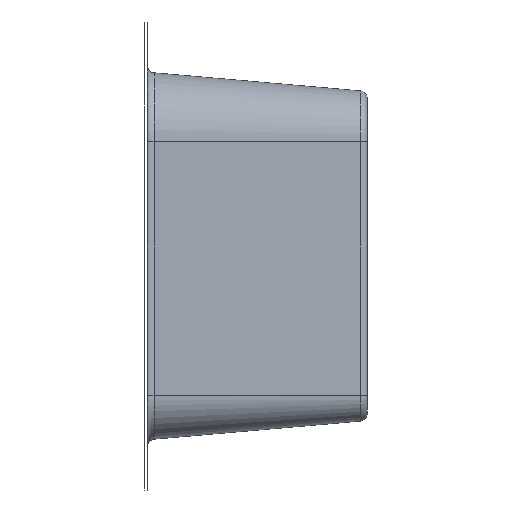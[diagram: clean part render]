
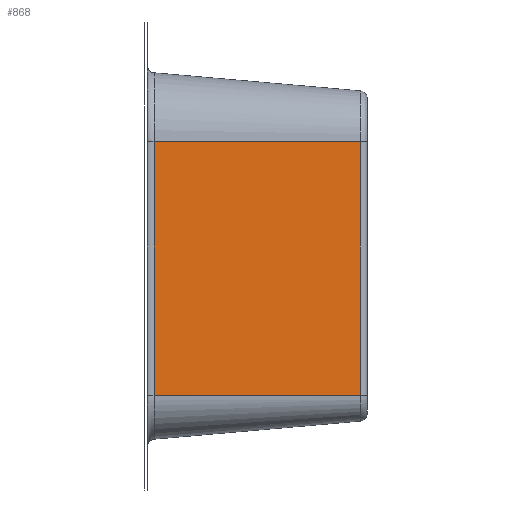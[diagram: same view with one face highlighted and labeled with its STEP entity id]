
A CAD part, left-side view. The second image highlights one B-rep face of the part: STEP entity #868.
In plain terms, the highlighted free-form (B-spline) face has degree [5, 1] with [6, 2] control points.
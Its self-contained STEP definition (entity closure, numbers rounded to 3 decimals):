
#273=CARTESIAN_POINT('Vertex',(-0.24,2.739,111.)) ;
#276=CARTESIAN_POINT('Line Origine',(-0.24,2.739,66.17)) ;
#280=CARTESIAN_POINT('Vertex',(-0.24,2.739,10.)) ;
#822=CARTESIAN_POINT('Control Point',(-7.67,87.665,10.)) ;
#823=CARTESIAN_POINT('Control Point',(0.,0.,10.)) ;
#824=CARTESIAN_POINT('Control Point',(-7.67,87.665,30.2)) ;
#825=CARTESIAN_POINT('Control Point',(0.,0.,30.2)) ;
#826=CARTESIAN_POINT('Control Point',(-7.67,87.665,50.4)) ;
#827=CARTESIAN_POINT('Control Point',(0.,0.,50.4)) ;
#828=CARTESIAN_POINT('Control Point',(-7.67,87.665,70.6)) ;
#829=CARTESIAN_POINT('Control Point',(0.,0.,70.6)) ;
#830=CARTESIAN_POINT('Control Point',(-7.67,87.665,90.8)) ;
#831=CARTESIAN_POINT('Control Point',(0.,0.,90.8)) ;
#832=CARTESIAN_POINT('Control Point',(-7.67,87.665,111.)) ;
#833=CARTESIAN_POINT('Control Point',(0.,0.,111.)) ;
#835=CARTESIAN_POINT('Control Point',(-7.43,84.927,111.)) ;
#836=CARTESIAN_POINT('Control Point',(-5.992,68.489,111.)) ;
#837=CARTESIAN_POINT('Control Point',(-4.554,52.051,111.)) ;
#838=CARTESIAN_POINT('Control Point',(-3.116,35.614,111.)) ;
#839=CARTESIAN_POINT('Control Point',(-1.678,19.176,111.)) ;
#840=CARTESIAN_POINT('Control Point',(-0.24,2.739,111.)) ;
#841=CARTESIAN_POINT('Vertex',(-7.43,84.927,111.)) ;
#845=CARTESIAN_POINT('Control Point',(-7.43,84.927,10.)) ;
#846=CARTESIAN_POINT('Control Point',(-7.43,84.927,30.2)) ;
#847=CARTESIAN_POINT('Control Point',(-7.43,84.927,50.4)) ;
#848=CARTESIAN_POINT('Control Point',(-7.43,84.927,70.6)) ;
#849=CARTESIAN_POINT('Control Point',(-7.43,84.927,90.8)) ;
#850=CARTESIAN_POINT('Control Point',(-7.43,84.927,111.)) ;
#851=CARTESIAN_POINT('Vertex',(-7.43,84.927,10.)) ;
#855=CARTESIAN_POINT('Control Point',(-7.43,84.927,10.)) ;
#856=CARTESIAN_POINT('Control Point',(-5.992,68.489,10.)) ;
#857=CARTESIAN_POINT('Control Point',(-4.554,52.051,10.)) ;
#858=CARTESIAN_POINT('Control Point',(-3.116,35.614,10.)) ;
#859=CARTESIAN_POINT('Control Point',(-1.678,19.176,10.)) ;
#860=CARTESIAN_POINT('Control Point',(-0.24,2.739,10.)) ;
#277=DIRECTION('Vector Direction',(0.,0.,1.)) ;
#863=ORIENTED_EDGE('',*,*,#282,.F.) ;
#864=ORIENTED_EDGE('',*,*,#843,.F.) ;
#865=ORIENTED_EDGE('',*,*,#853,.F.) ;
#866=ORIENTED_EDGE('',*,*,#861,.T.) ;
#278=VECTOR('Line Direction',#277,1.) ;
#868=ADVANCED_FACE('base',(#867),#821,.F.) ;
#834=B_SPLINE_CURVE_WITH_KNOTS('',5,(#835,#836,#837,#838,#839,#840),.UNSPECIFIED.,.F.,.U.,(6,6),(2.749,85.251),.UNSPECIFIED.) ;
#844=B_SPLINE_CURVE_WITH_KNOTS('',5,(#845,#846,#847,#848,#849,#850),.UNSPECIFIED.,.F.,.U.,(6,6),(0.,101.),.UNSPECIFIED.) ;
#854=B_SPLINE_CURVE_WITH_KNOTS('',5,(#855,#856,#857,#858,#859,#860),.UNSPECIFIED.,.F.,.U.,(6,6),(2.749,85.251),.UNSPECIFIED.) ;
#821=B_SPLINE_SURFACE_WITH_KNOTS('',5,1,((#822,#823),(#824,#825),(#826,#827),(#828,#829),(#830,#831),(#832,#833)),.UNSPECIFIED.,.F.,.F.,.U.,(6,6),(2,2),(0.,101.),(0.,88.),.UNSPECIFIED.) ;
#282=EDGE_CURVE('',#274,#281,#279,.F.) ;
#843=EDGE_CURVE('',#842,#274,#834,.T.) ;
#853=EDGE_CURVE('',#852,#842,#844,.T.) ;
#861=EDGE_CURVE('',#852,#281,#854,.T.) ;
#862=EDGE_LOOP('',(#863,#864,#865,#866)) ;
#867=FACE_OUTER_BOUND('',#862,.T.) ;
#279=LINE('Line',#276,#278) ;
#274=VERTEX_POINT('',#273) ;
#281=VERTEX_POINT('',#280) ;
#842=VERTEX_POINT('',#841) ;
#852=VERTEX_POINT('',#851) ;
